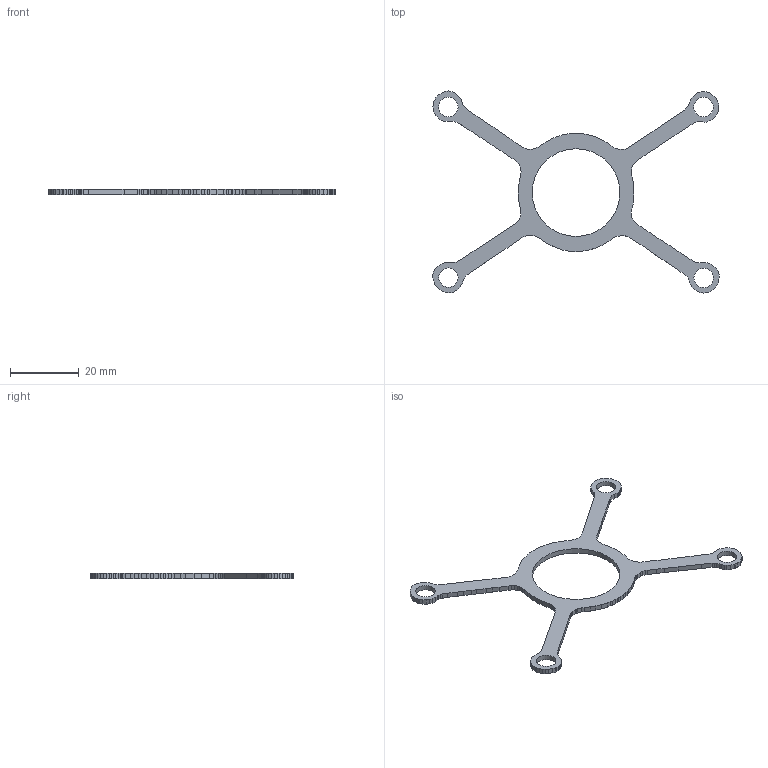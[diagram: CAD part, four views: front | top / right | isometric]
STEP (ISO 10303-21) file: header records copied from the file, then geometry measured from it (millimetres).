
FILE_DESCRIPTION(('Open CASCADE Model'),'2;1');
FILE_NAME('Open CASCADE Shape Model','2026-10-01T15:23:51',('Author'),( 'Open CASCADE'),'Open CASCADE STEP processor 7.9','Open CASCADE 7.9' ,'Unknown');
FILE_SCHEMA(('AUTOMOTIVE_DESIGN { 1 0 10303 214 1 1 1 1 }'));
Length unit declared in the file: millimetre
Products named in the file (1): Open CASCADE STEP translator 7.9 16
Bounding box: 83.4 x 58.83 x 1.5 mm (x, y, z)
Volume: 1485.8 mm3; surface area: 2754 mm2
Topology: 1 solids, 1 shells, 269 faces, 801 edges, 534 vertices
Faces by surface type: plane 264, cylinder 5
Full cylindrical faces by diameter (mm): 5.649 x1, 5.659 x1, 5.661 x1, 5.673 x1, 25.523 x1
Entity records: 19288 total; most frequent: CARTESIAN_POINT 3207, DIRECTION 2953, LINE 2383, VECTOR 2383, ORIENTED_EDGE 1602, PCURVE 1602, DEFINITIONAL_REPRESENTATION 1602, EDGE_CURVE 801
